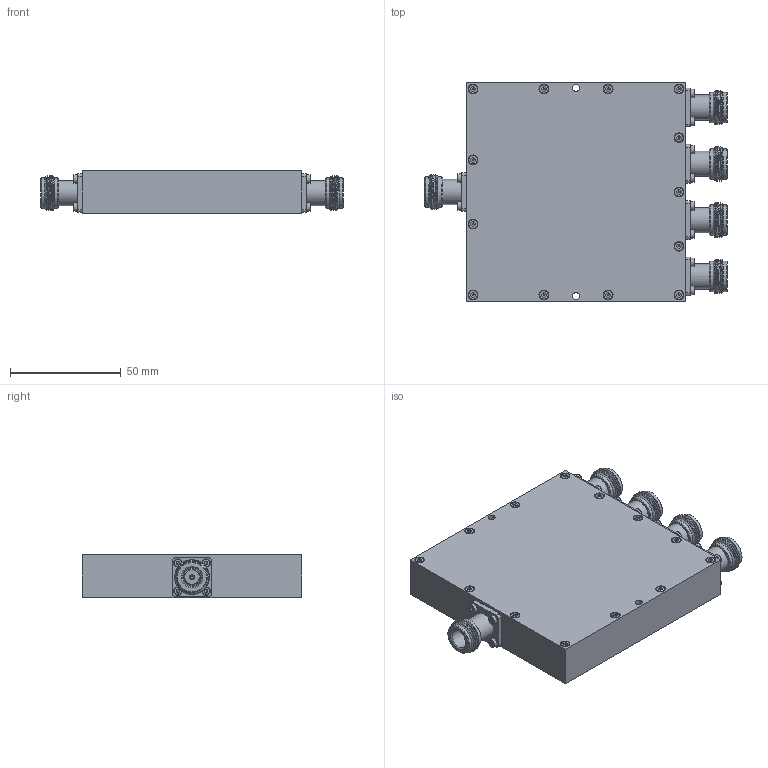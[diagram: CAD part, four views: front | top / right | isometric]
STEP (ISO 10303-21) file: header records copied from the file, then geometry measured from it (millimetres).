
FILE_DESCRIPTION(/* description */ ('Unknown'),/* implementation_level */ '2;1');
FILE_NAME(/* name */ 'DETI_MICROWAVE_4-WAY_POWER_DIVIDER_001676_STEP',/* time_stamp */ '2021-06-28T17:26:38+02:00',/* author */ ('ALG'),/* organization */ ('DETI'),/* preprocessor_version */ 'ST-DEVELOPER v16.7',/* originating_system */ 'Solid Edge',/* authorisation */ 'Unknown');
FILE_SCHEMA (('AUTOMOTIVE_DESIGN {1 0 10303 214 3 1 1}'));
Length unit declared in the file: millimetre
Products named in the file (1): DETI_MICROWAVE_4-WAY_POWER_DIVIDER_001676_STEP
Bounding box: 136.4 x 99 x 19 mm (x, y, z)
Volume: 112676.1 mm3; surface area: 59758.5 mm2
Topology: 1 solids, 59 shells, 1182 faces, 3043 edges, 2027 vertices
Faces by surface type: plane 688, cylinder 203, cone 188, torus 73, bspline 30
Full cylindrical faces by diameter (mm): 1.567 x43, 2 x33, 2.2 x13, 3.2 x22, 3.8 x33, 4.1 x10, 7.851 x5, 11.4 x5, 13.8 x10
Entity records: 44993 total; most frequent: CARTESIAN_POINT 12400, DIRECTION 5024, ORIENTED_EDGE 4713, EDGE_CURVE 2389, VERTEX_POINT 1863, FACE_BOUND 1838, AXIS2_PLACEMENT_3D 1787, EDGE_LOOP 1783
